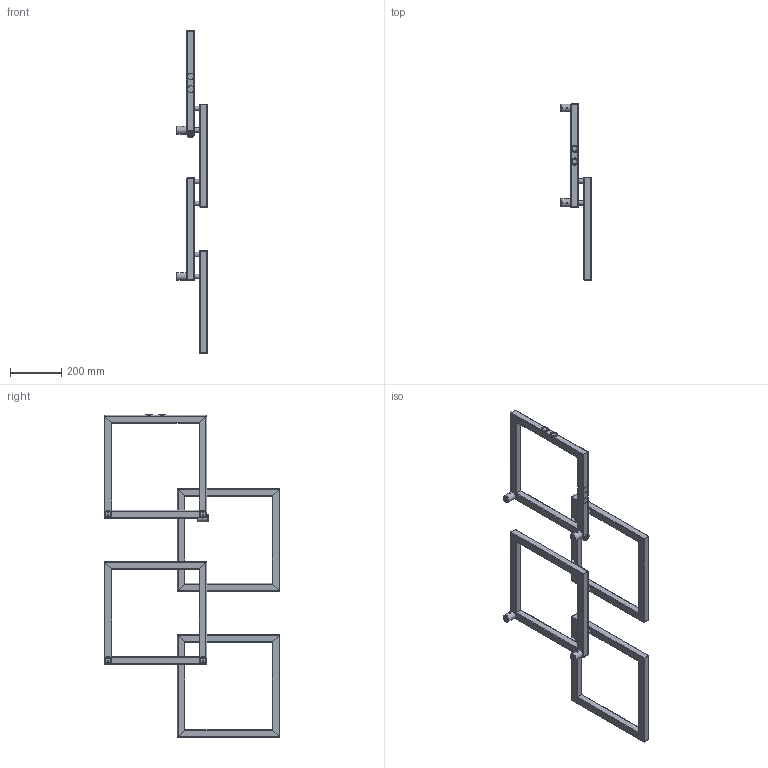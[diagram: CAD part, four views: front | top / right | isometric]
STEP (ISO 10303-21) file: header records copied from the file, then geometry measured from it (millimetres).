
FILE_DESCRIPTION( ( 'Unknown' ), '1' );
FILE_NAME( 'V:/DESIGN PROGRAM/LOCO/STP/LOCO 4.stp', 'Unknown', ( 'Unknown' ), ( 'Unknown' ), 'PSStep 10.1', 'Unknown', ' ' );
FILE_SCHEMA( ( 'AUTOMOTIVE_DESIGN { 1 0 10303 214 1 1 1 1 }' ) );
Length unit declared in the file: millimetre
Products named in the file (16): Ramka 2; Mocowanie L40; Assem1; Ramka 1; Ramka 3; czêœæ 1; czêœæ 2; czêœæ 3; czêœæ 4; czêœæ 5; czêœæ 6; MOCOWANIE L40-01; MOCOWANIE FASOLKA; MOCOWANIE L40-03; ｳｹcznik ; Zaslepka fi 30 z gwintem 
Bounding box: 120 x 685 x 1258 mm (x, y, z)
Volume: 2189430.1 mm3; surface area: 2868489.6 mm2
Topology: 62 solids, 62 shells, 873 faces, 2250 edges, 1500 vertices
Faces by surface type: plane 443, cylinder 394, cone 30, torus 6
Full cylindrical faces by diameter (mm): 4.917 x6, 12.5 x7, 15.5 x7, 16.3 x7, 16.5 x25, 17 x6, 17.2 x7, 18.631 x3, 20 x6, 22 x6, 22.7 x6, 23 x6, 25 x3, 25.25 x6, 29 x3, 30 x6
Entity records: 6515 total; most frequent: CARTESIAN_POINT 1014, DIRECTION 890, ORIENTED_EDGE 738, EDGE_CURVE 369, AXIS2_PLACEMENT_3D 341, VERTEX_POINT 261, EDGE_LOOP 224, LINE 208
